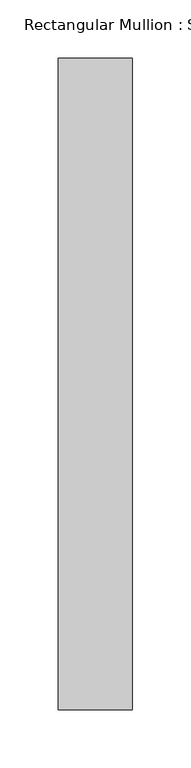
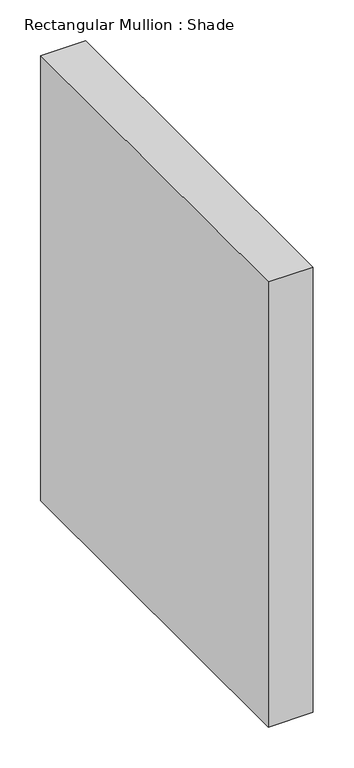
"""IFC4 building model written with IfcOpenShell, lengths in millimetres: member geometry, Rectangular Mullion : Shade."""

from ifc_helpers import new_model, si_unit, frame, origin, place, context, project, spatial, polyline, outline, extrude, source, transform, mapped, element, save


def rectangular_mullion_shade_51ff6f6d(model_context):
    return source(origin(), model_context, "Body", "SweptSolid", [
        extrude(outline(polyline([(0.0, 482.6), (0.0, -76.2), (-63.5, -76.2), (-63.5, 482.6), (0.0, 482.6)])), frame((0.0, 0.0, -666.75), z_axis=(0.0, 0.0, 1.0), x_axis=(1.0, 0.0, 0.0)), (0.0, 0.0, 1.0), 666.75),
    ])


if __name__ == "__main__":
    model = new_model("IFC4")
    model_context = context("Model", 3, world=origin())
    ifc_project = project(units=[si_unit("LENGTHUNIT", "METRE", prefix="MILLI")], contexts=[model_context])
    site = spatial("IfcSite", under=ifc_project)
    building = spatial("IfcBuilding", under=site)
    placement = place(None, origin())
    rectangular_mullion_shade_shape = rectangular_mullion_shade_51ff6f6d(model_context)
    element("IfcMember", 1, ObjectType="Rectangular Mullion : Shade", at=placement, inside=building, context=model_context, shape_type="MappedRepresentation", body=[
        mapped(rectangular_mullion_shade_shape, transform((0.0, 0.0, 0.0), x_axis=(1.0, 0.0, 0.0), y_axis=(0.0, 1.0, 0.0), z_axis=(0.0, 0.0, 1.0))),
    ])
    save(model, "model.ifc")
